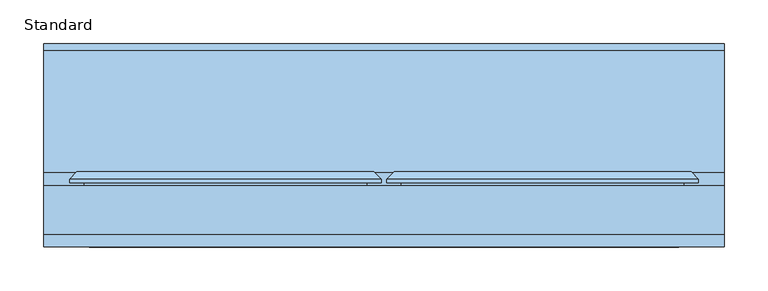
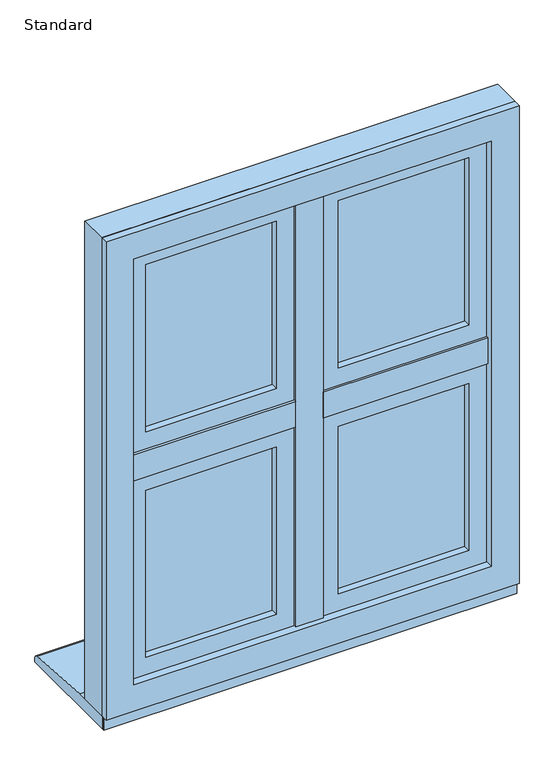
"""IFC4 building model written with IfcOpenShell, lengths in millimetres: window geometry, SMARTS_Alitherm600 : Standard."""

from ifc_helpers import new_model, si_unit, point, frame, frame_2d, origin, place, context, project, spatial, polyline, circle_curve, trimmed, segment, composite_curve, outline, extrude, faceted_brep, source, transform, mapped, element, save


def standard_3f2e796d(model_context):
    return source(origin(), model_context, "Body", "SolidModel", [
        extrude(outline(polyline([(-9.4, 102.8298432), (9.4, 102.8298432), (9.4, 47.2458572), (-9.4, 47.2458572), (-9.4, 102.8298432)])), frame((0.0, 0.0, 670.8979117), z_axis=(0.0, 0.0, 1.0), x_axis=(1.0, 0.0, 0.0)), (0.0, 0.0, 1.0), 883.2041766),
        extrude(outline(polyline([(-25.9020883, 47.2458572), (25.9020883, 47.2458572), (25.9020883, 43.2798432), (-25.9020883, 43.2798432), (-25.9020883, 47.2458572)])), frame((0.0, 0.0, 687.4), z_axis=(0.0, 0.0, 1.0), x_axis=(1.0, 0.0, 0.0)), (0.0, 0.0, 1.0), 850.2),
        extrude(outline(polyline([(-9.4979117, 102.8298432), (-9.4979117, 47.2458572), (-354.1020883, 47.2458572), (-354.1020883, 102.8298432), (-9.4979117, 102.8298432)])), frame((0.0, 0.0, 1103.1), z_axis=(0.0, 0.0, 1.0), x_axis=(1.0, 0.0, 0.0)), (0.0, 0.0, 1.0), 18.8),
        extrude(outline(polyline([(-26.0, 47.2458572), (-26.0, 43.2798432), (-337.6, 43.2798432), (-337.6, 47.2458572), (-26.0, 47.2458572)])), frame((0.0, 0.0, 1086.5979117), z_axis=(0.0, 0.0, 1.0), x_axis=(1.0, 0.0, 0.0)), (0.0, 0.0, 1.0), 51.8041766),
        extrude(outline(polyline([(354.1020883, 102.8298432), (354.1020883, 47.2458572), (9.4979117, 47.2458572), (9.4979117, 102.8298432), (354.1020883, 102.8298432)])), frame((0.0, 0.0, 1103.1), z_axis=(0.0, 0.0, 1.0), x_axis=(1.0, 0.0, 0.0)), (0.0, 0.0, 1.0), 18.8),
        extrude(outline(polyline([(337.6, 47.2458572), (337.6, 43.2798432), (26.0, 43.2798432), (26.0, 47.2458572), (337.6, 47.2458572)])), frame((0.0, 0.0, 1086.5979117), z_axis=(0.0, 0.0, 1.0), x_axis=(1.0, 0.0, 0.0)), (0.0, 0.0, 1.0), 51.8041766),
        extrude(outline(polyline([(1065.5, -316.6), (708.4, -316.6), (708.4, -47.0), (1065.5, -47.0), (1065.5, -316.6)]), holes=[polyline([(1055.5, -57.0), (718.4, -57.0), (718.4, -306.6), (1055.5, -306.6), (1055.5, -57.0)])]), frame((0.0, 72.3211351, 0.0), z_axis=(0.0, 1.0, 0.0), x_axis=(0.0, 0.0, 1.0)), (0.0, 0.0, 1.0), 16.0),
        extrude(outline(polyline([(-316.6, 92.3211351), (-47.0, 92.3211351), (-47.0, 88.3211351), (-316.6, 88.3211351), (-316.6, 92.3211351)])), frame((0.0, 0.0, 708.4), z_axis=(0.0, 0.0, 1.0), x_axis=(1.0, 0.0, 0.0)), (0.0, 0.0, 1.0), 357.1),
        extrude(outline(polyline([(-316.6, 72.3211351), (-47.0, 72.3211351), (-47.0, 68.3211351), (-316.6, 68.3211351), (-316.6, 72.3211351)])), frame((0.0, 0.0, 708.4), z_axis=(0.0, 0.0, 1.0), x_axis=(1.0, 0.0, 0.0)), (0.0, 0.0, 1.0), 357.1),
        faceted_brep([(-46.6778853, 118.8818325, 1065.8221147), (-58.859976, 97.7818325, 1053.640024), (-304.740024, 97.7818325, 1053.640024), (-316.9221147, 118.8818325, 1065.8221147), (-41.9939506, 97.7818325, 1070.5060494), (-41.9939506, 118.8818325, 1070.5060494), (-321.6060494, 118.8818325, 1070.5060494), (-321.6060494, 97.7818325, 1070.5060494), (-304.740024, 97.7818325, 720.259976), (-316.9221147, 118.8818325, 708.0778853), (-321.6060494, 118.8818325, 703.3939506), (-321.6060494, 97.7818325, 703.3939506), (-58.859976, 97.7818325, 720.259976), (-46.6778853, 118.8818325, 708.0778853), (-41.9939506, 118.8818325, 703.3939506), (-41.9939506, 97.7818325, 703.3939506)], [[[0, 1, 2, 3]], [[4, 5, 6, 7]], [[3, 2, 8, 9]], [[7, 6, 10, 11]], [[9, 8, 12, 13]], [[11, 10, 14, 15]], [[13, 12, 1, 0]], [[5, 14, 10, 6], [3, 9, 13, 0]], [[15, 14, 5, 4]], [[7, 11, 15, 4], [1, 12, 8, 2]]]),
        extrude(outline(polyline([(681.552908, -343.447092), (681.552908, -20.152908), (1092.347092, -20.152908), (1092.347092, -343.447092), (681.552908, -343.447092)]), holes=[polyline([(1054.0, -305.1), (1054.0, -58.5), (719.9, -58.5), (719.9, -305.1), (1054.0, -305.1)])]), frame((0.0, 50.2798432, 0.0), z_axis=(0.0, 1.0, 0.0), x_axis=(0.0, 0.0, 1.0)), (0.0, 0.0, 1.0), 13.0853156),
        faceted_brep([(-321.6060494, 118.8818325, 1070.5060494), (-321.6060494, 63.3651588, 1070.5060494), (-321.6060494, 63.3651588, 703.3939506), (-321.6060494, 118.8818325, 703.3939506), (-41.9939506, 63.3651588, 703.3939506), (-41.9939506, 118.8818325, 703.3939506), (-41.9939506, 63.3651588, 1070.5060494), (-41.9939506, 118.8818325, 1070.5060494), (-360.3358988, 106.2818325, 1109.2358988), (-360.3358988, 110.3519831, 1109.2358988), (-360.3358988, 110.3519831, 664.6641012), (-360.3358988, 106.2818325, 664.6641012), (-3.2641012, 110.3519831, 664.6641012), (-3.2641012, 106.2818325, 664.6641012), (-3.2641012, 110.3519831, 1109.2358988), (-3.2641012, 106.2818325, 1109.2358988), (-343.7467657, 106.2818325, 1092.6467657), (-19.8532343, 106.2818325, 1092.6467657), (-19.8532343, 106.2818325, 681.2532343), (-343.7467657, 106.2818325, 681.2532343), (-351.8060494, 118.8818325, 1100.7060494), (-11.7939506, 118.8818325, 1100.7060494), (-11.7939506, 118.8818325, 673.1939506), (-351.8060494, 118.8818325, 673.1939506), (-343.7467657, 63.3651588, 1092.6467657), (-343.7467657, 63.3651588, 681.2532343), (-19.8532343, 63.3651588, 681.2532343), (-19.8532343, 63.3651588, 1092.6467657)], [[[0, 1, 2, 3]], [[3, 2, 4, 5]], [[5, 4, 6, 7]], [[7, 6, 1, 0]], [[8, 9, 10, 11]], [[11, 10, 12, 13]], [[13, 12, 14, 15]], [[11, 13, 15, 8], [16, 17, 18, 19]], [[15, 14, 9, 8]], [[20, 21, 22, 23], [3, 5, 7, 0]], [[24, 16, 19, 25]], [[25, 19, 18, 26]], [[26, 18, 17, 27]], [[25, 26, 27, 24], [1, 6, 4, 2]], [[27, 17, 16, 24]], [[9, 20, 23, 10]], [[10, 23, 22, 12]], [[12, 22, 21, 14]], [[14, 21, 20, 9]]]),
        extrude(outline(polyline([(1516.6, -316.6), (1159.5, -316.6), (1159.5, -47.0), (1516.6, -47.0), (1516.6, -316.6)]), holes=[polyline([(1506.6, -57.0), (1169.5, -57.0), (1169.5, -306.6), (1506.6, -306.6), (1506.6, -57.0)])]), frame((0.0, 72.3211351, 0.0), z_axis=(0.0, 1.0, 0.0), x_axis=(0.0, 0.0, 1.0)), (0.0, 0.0, 1.0), 16.0),
        extrude(outline(polyline([(-316.6, 92.3211351), (-47.0, 92.3211351), (-47.0, 88.3211351), (-316.6, 88.3211351), (-316.6, 92.3211351)])), frame((0.0, 0.0, 1159.5), z_axis=(0.0, 0.0, 1.0), x_axis=(1.0, 0.0, 0.0)), (0.0, 0.0, 1.0), 357.1),
        extrude(outline(polyline([(-316.6, 72.3211351), (-47.0, 72.3211351), (-47.0, 68.3211351), (-316.6, 68.3211351), (-316.6, 72.3211351)])), frame((0.0, 0.0, 1159.5), z_axis=(0.0, 0.0, 1.0), x_axis=(1.0, 0.0, 0.0)), (0.0, 0.0, 1.0), 357.1),
        faceted_brep([(-46.6778853, 118.8818325, 1516.9221147), (-58.859976, 97.7818325, 1504.740024), (-304.740024, 97.7818325, 1504.740024), (-316.9221147, 118.8818325, 1516.9221147), (-41.9939506, 97.7818325, 1521.6060494), (-41.9939506, 118.8818325, 1521.6060494), (-321.6060494, 118.8818325, 1521.6060494), (-321.6060494, 97.7818325, 1521.6060494), (-304.740024, 97.7818325, 1171.359976), (-316.9221147, 118.8818325, 1159.1778853), (-321.6060494, 118.8818325, 1154.4939506), (-321.6060494, 97.7818325, 1154.4939506), (-58.859976, 97.7818325, 1171.359976), (-46.6778853, 118.8818325, 1159.1778853), (-41.9939506, 118.8818325, 1154.4939506), (-41.9939506, 97.7818325, 1154.4939506)], [[[0, 1, 2, 3]], [[4, 5, 6, 7]], [[3, 2, 8, 9]], [[7, 6, 10, 11]], [[9, 8, 12, 13]], [[11, 10, 14, 15]], [[13, 12, 1, 0]], [[5, 14, 10, 6], [3, 9, 13, 0]], [[15, 14, 5, 4]], [[7, 11, 15, 4], [1, 12, 8, 2]]]),
        extrude(outline(polyline([(1132.652908, -343.447092), (1132.652908, -20.152908), (1543.447092, -20.152908), (1543.447092, -343.447092), (1132.652908, -343.447092)]), holes=[polyline([(1505.1, -305.1), (1505.1, -58.5), (1171.0, -58.5), (1171.0, -305.1), (1505.1, -305.1)])]), frame((0.0, 50.2798432, 0.0), z_axis=(0.0, 1.0, 0.0), x_axis=(0.0, 0.0, 1.0)), (0.0, 0.0, 1.0), 13.0853156),
        faceted_brep([(-321.6060494, 118.8818325, 1521.6060494), (-321.6060494, 63.3651588, 1521.6060494), (-321.6060494, 63.3651588, 1154.4939506), (-321.6060494, 118.8818325, 1154.4939506), (-41.9939506, 63.3651588, 1154.4939506), (-41.9939506, 118.8818325, 1154.4939506), (-41.9939506, 63.3651588, 1521.6060494), (-41.9939506, 118.8818325, 1521.6060494), (-360.3358988, 106.2818325, 1560.3358988), (-360.3358988, 110.3519831, 1560.3358988), (-360.3358988, 110.3519831, 1115.7641012), (-360.3358988, 106.2818325, 1115.7641012), (-3.2641012, 110.3519831, 1115.7641012), (-3.2641012, 106.2818325, 1115.7641012), (-3.2641012, 110.3519831, 1560.3358988), (-3.2641012, 106.2818325, 1560.3358988), (-343.7467657, 106.2818325, 1543.7467657), (-19.8532343, 106.2818325, 1543.7467657), (-19.8532343, 106.2818325, 1132.3532343), (-343.7467657, 106.2818325, 1132.3532343), (-351.8060494, 118.8818325, 1551.8060494), (-11.7939506, 118.8818325, 1551.8060494), (-11.7939506, 118.8818325, 1124.2939506), (-351.8060494, 118.8818325, 1124.2939506), (-343.7467657, 63.3651588, 1543.7467657), (-343.7467657, 63.3651588, 1132.3532343), (-19.8532343, 63.3651588, 1132.3532343), (-19.8532343, 63.3651588, 1543.7467657)], [[[0, 1, 2, 3]], [[3, 2, 4, 5]], [[5, 4, 6, 7]], [[7, 6, 1, 0]], [[8, 9, 10, 11]], [[11, 10, 12, 13]], [[13, 12, 14, 15]], [[11, 13, 15, 8], [16, 17, 18, 19]], [[15, 14, 9, 8]], [[20, 21, 22, 23], [3, 5, 7, 0]], [[24, 16, 19, 25]], [[25, 19, 18, 26]], [[26, 18, 17, 27]], [[25, 26, 27, 24], [1, 6, 4, 2]], [[27, 17, 16, 24]], [[9, 20, 23, 10]], [[10, 23, 22, 12]], [[12, 22, 21, 14]], [[14, 21, 20, 9]]]),
        extrude(outline(polyline([(1065.5, 47.0), (708.4, 47.0), (708.4, 316.6), (1065.5, 316.6), (1065.5, 47.0)]), holes=[polyline([(1055.5, 306.6), (718.4, 306.6), (718.4, 57.0), (1055.5, 57.0), (1055.5, 306.6)])]), frame((0.0, 72.3211351, 0.0), z_axis=(0.0, 1.0, 0.0), x_axis=(0.0, 0.0, 1.0)), (0.0, 0.0, 1.0), 16.0),
        extrude(outline(polyline([(47.0, 92.3211351), (316.6, 92.3211351), (316.6, 88.3211351), (47.0, 88.3211351), (47.0, 92.3211351)])), frame((0.0, 0.0, 708.4), z_axis=(0.0, 0.0, 1.0), x_axis=(1.0, 0.0, 0.0)), (0.0, 0.0, 1.0), 357.1),
        extrude(outline(polyline([(47.0, 72.3211351), (316.6, 72.3211351), (316.6, 68.3211351), (47.0, 68.3211351), (47.0, 72.3211351)])), frame((0.0, 0.0, 708.4), z_axis=(0.0, 0.0, 1.0), x_axis=(1.0, 0.0, 0.0)), (0.0, 0.0, 1.0), 357.1),
        faceted_brep([(316.9221147, 118.8818325, 1065.8221147), (304.740024, 97.7818325, 1053.640024), (58.859976, 97.7818325, 1053.640024), (46.6778853, 118.8818325, 1065.8221147), (321.6060494, 97.7818325, 1070.5060494), (321.6060494, 118.8818325, 1070.5060494), (41.9939506, 118.8818325, 1070.5060494), (41.9939506, 97.7818325, 1070.5060494), (58.859976, 97.7818325, 720.259976), (46.6778853, 118.8818325, 708.0778853), (41.9939506, 118.8818325, 703.3939506), (41.9939506, 97.7818325, 703.3939506), (304.740024, 97.7818325, 720.259976), (316.9221147, 118.8818325, 708.0778853), (321.6060494, 118.8818325, 703.3939506), (321.6060494, 97.7818325, 703.3939506)], [[[0, 1, 2, 3]], [[4, 5, 6, 7]], [[3, 2, 8, 9]], [[7, 6, 10, 11]], [[9, 8, 12, 13]], [[11, 10, 14, 15]], [[13, 12, 1, 0]], [[5, 14, 10, 6], [3, 9, 13, 0]], [[15, 14, 5, 4]], [[7, 11, 15, 4], [1, 12, 8, 2]]]),
        extrude(outline(polyline([(681.552908, 20.152908), (681.552908, 343.447092), (1092.347092, 343.447092), (1092.347092, 20.152908), (681.552908, 20.152908)]), holes=[polyline([(1054.0, 58.5), (1054.0, 305.1), (719.9, 305.1), (719.9, 58.5), (1054.0, 58.5)])]), frame((0.0, 50.2798432, 0.0), z_axis=(0.0, 1.0, 0.0), x_axis=(0.0, 0.0, 1.0)), (0.0, 0.0, 1.0), 13.0853156),
        faceted_brep([(41.9939506, 118.8818325, 1070.5060494), (41.9939506, 63.3651588, 1070.5060494), (41.9939506, 63.3651588, 703.3939506), (41.9939506, 118.8818325, 703.3939506), (321.6060494, 63.3651588, 703.3939506), (321.6060494, 118.8818325, 703.3939506), (321.6060494, 63.3651588, 1070.5060494), (321.6060494, 118.8818325, 1070.5060494), (3.2641012, 106.2818325, 1109.2358988), (3.2641012, 110.3519831, 1109.2358988), (3.2641012, 110.3519831, 664.6641012), (3.2641012, 106.2818325, 664.6641012), (360.3358988, 110.3519831, 664.6641012), (360.3358988, 106.2818325, 664.6641012), (360.3358988, 110.3519831, 1109.2358988), (360.3358988, 106.2818325, 1109.2358988), (19.8532343, 106.2818325, 1092.6467657), (343.7467657, 106.2818325, 1092.6467657), (343.7467657, 106.2818325, 681.2532343), (19.8532343, 106.2818325, 681.2532343), (11.7939506, 118.8818325, 1100.7060494), (351.8060494, 118.8818325, 1100.7060494), (351.8060494, 118.8818325, 673.1939506), (11.7939506, 118.8818325, 673.1939506), (19.8532343, 63.3651588, 1092.6467657), (19.8532343, 63.3651588, 681.2532343), (343.7467657, 63.3651588, 681.2532343), (343.7467657, 63.3651588, 1092.6467657)], [[[0, 1, 2, 3]], [[3, 2, 4, 5]], [[5, 4, 6, 7]], [[7, 6, 1, 0]], [[8, 9, 10, 11]], [[11, 10, 12, 13]], [[13, 12, 14, 15]], [[11, 13, 15, 8], [16, 17, 18, 19]], [[15, 14, 9, 8]], [[20, 21, 22, 23], [3, 5, 7, 0]], [[24, 16, 19, 25]], [[25, 19, 18, 26]], [[26, 18, 17, 27]], [[25, 26, 27, 24], [1, 6, 4, 2]], [[27, 17, 16, 24]], [[9, 20, 23, 10]], [[10, 23, 22, 12]], [[12, 22, 21, 14]], [[14, 21, 20, 9]]]),
        extrude(outline(polyline([(1590.0, 390.0), (1590.0, -390.0), (635.0, -390.0), (635.0, 390.0), (1590.0, 390.0)]), holes=[polyline([(670.85, 354.15), (670.85, -354.15), (1554.15, -354.15), (1554.15, 354.15), (670.85, 354.15)])]), frame((0.0, 47.2798427, 0.0), z_axis=(0.0, 1.0, 0.0), x_axis=(0.0, 0.0, 1.0)), (0.0, 0.0, 1.0), 55.5500006),
        extrude(outline(polyline([(1590.0, 390.0), (1590.0, -390.0), (635.0, -390.0), (635.0, 390.0), (1590.0, 390.0)]), holes=[polyline([(687.35, 337.65), (687.35, -337.65), (1537.65, -337.65), (1537.65, 337.65), (687.35, 337.65)])]), frame((0.0, 32.8298432, 0.0), z_axis=(0.0, 1.0, 0.0), x_axis=(0.0, 0.0, 1.0)), (0.0, 0.0, 1.0), 14.4499994),
        extrude(outline(polyline([(1516.6, 47.0), (1159.5, 47.0), (1159.5, 316.6), (1516.6, 316.6), (1516.6, 47.0)]), holes=[polyline([(1506.6, 306.6), (1169.5, 306.6), (1169.5, 57.0), (1506.6, 57.0), (1506.6, 306.6)])]), frame((0.0, 72.3211351, 0.0), z_axis=(0.0, 1.0, 0.0), x_axis=(0.0, 0.0, 1.0)), (0.0, 0.0, 1.0), 16.0),
        extrude(outline(polyline([(47.0, 92.3211351), (316.6, 92.3211351), (316.6, 88.3211351), (47.0, 88.3211351), (47.0, 92.3211351)])), frame((0.0, 0.0, 1159.5), z_axis=(0.0, 0.0, 1.0), x_axis=(1.0, 0.0, 0.0)), (0.0, 0.0, 1.0), 357.1),
        extrude(outline(polyline([(47.0, 72.3211351), (316.6, 72.3211351), (316.6, 68.3211351), (47.0, 68.3211351), (47.0, 72.3211351)])), frame((0.0, 0.0, 1159.5), z_axis=(0.0, 0.0, 1.0), x_axis=(1.0, 0.0, 0.0)), (0.0, 0.0, 1.0), 357.1),
        faceted_brep([(316.9221147, 118.8818325, 1516.9221147), (304.740024, 97.7818325, 1504.740024), (58.859976, 97.7818325, 1504.740024), (46.6778853, 118.8818325, 1516.9221147), (321.6060494, 97.7818325, 1521.6060494), (321.6060494, 118.8818325, 1521.6060494), (41.9939506, 118.8818325, 1521.6060494), (41.9939506, 97.7818325, 1521.6060494), (58.859976, 97.7818325, 1171.359976), (46.6778853, 118.8818325, 1159.1778853), (41.9939506, 118.8818325, 1154.4939506), (41.9939506, 97.7818325, 1154.4939506), (304.740024, 97.7818325, 1171.359976), (316.9221147, 118.8818325, 1159.1778853), (321.6060494, 118.8818325, 1154.4939506), (321.6060494, 97.7818325, 1154.4939506)], [[[0, 1, 2, 3]], [[4, 5, 6, 7]], [[3, 2, 8, 9]], [[7, 6, 10, 11]], [[9, 8, 12, 13]], [[11, 10, 14, 15]], [[13, 12, 1, 0]], [[5, 14, 10, 6], [3, 9, 13, 0]], [[15, 14, 5, 4]], [[7, 11, 15, 4], [1, 12, 8, 2]]]),
        extrude(outline(polyline([(1132.652908, 20.152908), (1132.652908, 343.447092), (1543.447092, 343.447092), (1543.447092, 20.152908), (1132.652908, 20.152908)]), holes=[polyline([(1505.1, 58.5), (1505.1, 305.1), (1171.0, 305.1), (1171.0, 58.5), (1505.1, 58.5)])]), frame((0.0, 50.2798432, 0.0), z_axis=(0.0, 1.0, 0.0), x_axis=(0.0, 0.0, 1.0)), (0.0, 0.0, 1.0), 13.0853156),
        faceted_brep([(41.9939506, 118.8818325, 1521.6060494), (41.9939506, 63.3651588, 1521.6060494), (41.9939506, 63.3651588, 1154.4939506), (41.9939506, 118.8818325, 1154.4939506), (321.6060494, 63.3651588, 1154.4939506), (321.6060494, 118.8818325, 1154.4939506), (321.6060494, 63.3651588, 1521.6060494), (321.6060494, 118.8818325, 1521.6060494), (3.2641012, 106.2818325, 1560.3358988), (3.2641012, 110.3519831, 1560.3358988), (3.2641012, 110.3519831, 1115.7641012), (3.2641012, 106.2818325, 1115.7641012), (360.3358988, 110.3519831, 1115.7641012), (360.3358988, 106.2818325, 1115.7641012), (360.3358988, 110.3519831, 1560.3358988), (360.3358988, 106.2818325, 1560.3358988), (19.8532343, 106.2818325, 1543.7467657), (343.7467657, 106.2818325, 1543.7467657), (343.7467657, 106.2818325, 1132.3532343), (19.8532343, 106.2818325, 1132.3532343), (11.7939506, 118.8818325, 1551.8060494), (351.8060494, 118.8818325, 1551.8060494), (351.8060494, 118.8818325, 1124.2939506), (11.7939506, 118.8818325, 1124.2939506), (19.8532343, 63.3651588, 1543.7467657), (19.8532343, 63.3651588, 1132.3532343), (343.7467657, 63.3651588, 1132.3532343), (343.7467657, 63.3651588, 1543.7467657)], [[[0, 1, 2, 3]], [[3, 2, 4, 5]], [[5, 4, 6, 7]], [[7, 6, 1, 0]], [[8, 9, 10, 11]], [[11, 10, 12, 13]], [[13, 12, 14, 15]], [[11, 13, 15, 8], [16, 17, 18, 19]], [[15, 14, 9, 8]], [[20, 21, 22, 23], [3, 5, 7, 0]], [[24, 16, 19, 25]], [[25, 19, 18, 26]], [[26, 18, 17, 27]], [[25, 26, 27, 24], [1, 6, 4, 2]], [[27, 17, 16, 24]], [[9, 20, 23, 10]], [[10, 23, 22, 12]], [[12, 22, 21, 14]], [[14, 21, 20, 9]]]),
        extrude(outline(polyline([(390.0, 43.2798432), (390.0, 40.7798432), (-390.0, 40.7798432), (-390.0, 43.2798432), (390.0, 43.2798432)])), frame((0.0, 0.0, 610.0), z_axis=(0.0, 0.0, 1.0), x_axis=(1.0, 0.0, 0.0)), (0.0, 0.0, 1.0), 31.0),
        extrude(outline(composite_curve([segment(polyline([(265.7798432, 610.0), (43.2798432, 610.0), (43.2798432, 635.0), (118.7798432, 635.0), (258.4770891, 625.9276664)]), True, "CONTINUOUS"), segment(trimmed(circle_curve(frame_2d((257.7798432, 617.9581088)), 8.0), [point((258.4770891, 625.9276664))], [point((265.7798432, 617.9581088))], False, "CARTESIAN"), True, "CONTINUOUS"), segment(polyline([(265.7798432, 617.9581088), (265.7798432, 610.0)]), True, "CONTINUOUS")], self_intersect=False)), frame((-390.0, 0.0, 0.0), z_axis=(1.0, 0.0, 0.0), x_axis=(0.0, 1.0, 0.0)), (0.0, 0.0, 1.0), 780.0),
    ])


if __name__ == "__main__":
    model = new_model("IFC4")
    model_context = context("Model", 3, world=origin())
    ifc_project = project(units=[si_unit("LENGTHUNIT", "METRE", prefix="MILLI")], contexts=[model_context])
    site = spatial("IfcSite", under=ifc_project)
    building = spatial("IfcBuilding", under=site)
    placement = place(None, origin())
    standard_shape = standard_3f2e796d(model_context)
    element("IfcWindow", 1, ObjectType="SMARTS_Alitherm600 : Standard", at=placement, inside=building, context=model_context, shape_type="MappedRepresentation", body=[
        mapped(standard_shape, transform((0.0, 0.0, 0.0), x_axis=(1.0, 0.0, 0.0), y_axis=(0.0, 1.0, 0.0), z_axis=(0.0, 0.0, 1.0))),
    ])
    save(model, "model.ifc")
